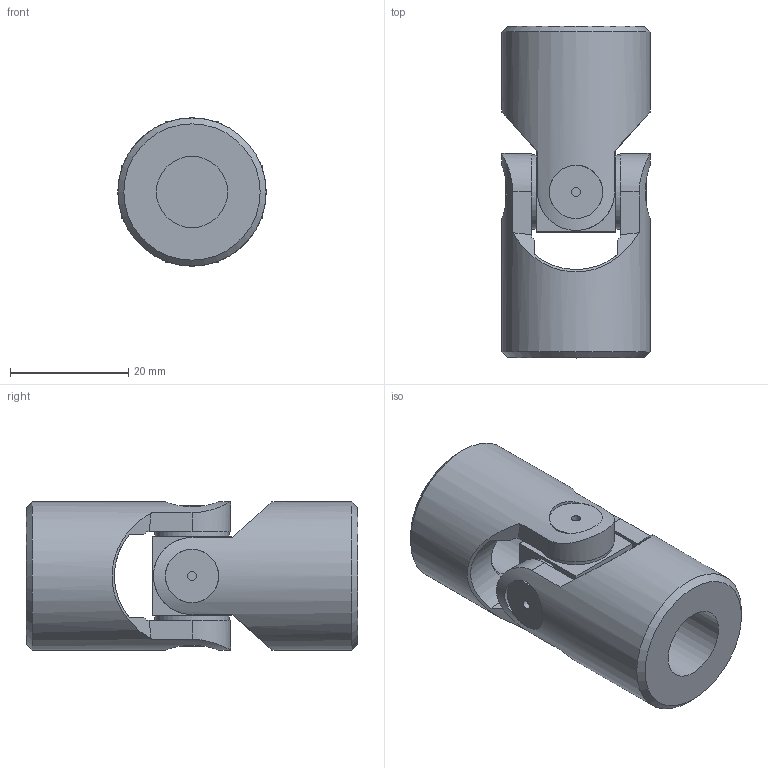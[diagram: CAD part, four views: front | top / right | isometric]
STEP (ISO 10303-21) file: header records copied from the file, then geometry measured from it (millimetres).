
FILE_DESCRIPTION(/* description */ ('EXTENSIBLE TRANSIMISSIONS Series G DIN 808 -2-'),/* implementation_level */ '2;1');
FILE_NAME(/* name */ '\\SRV2016\societa\Stefano\Disegni 3D\Dis. Clienti\0000Catalogo 3D\01Singoli G-GB\SG0S1200.stp',/* time_stamp */ '2021-11-08T14:38:39+01:00',/* author */ ('acquisti'),/* organization */ ('MARIOFERRI'),/* preprocessor_version */ 'ST-DEVELOPER v15.6',/* originating_system */ 'Autodesk Inventor 2015',/* authorisation */ '');
FILE_SCHEMA (('AUTOMOTIVE_DESIGN { 1 0 10303 214 3 1 1 }'));
Length unit declared in the file: millimetre
Products named in the file (3): 04G SFE; 04G MOS; Assieme1
Assembly tree (3 placements, depth 2):
  Assieme1
    04G SFE
    04G MOS  x2
Bounding box: 25 x 56 x 25 mm (x, y, z)
Volume: 18730.1 mm3; surface area: 8590.9 mm2
Topology: 3 solids, 3 shells, 84 faces, 194 edges, 126 vertices
Faces by surface type: plane 36, cylinder 34, cone 12, torus 2
Full cylindrical faces by diameter (mm): 1.5 x4, 12 x2, 12.5 x4, 13 x2, 25 x2
Entity records: 1551 total; most frequent: CARTESIAN_POINT 482, DIRECTION 208, ORIENTED_EDGE 192, EDGE_CURVE 96, AXIS2_PLACEMENT_3D 92, EDGE_LOOP 70, VERTEX_POINT 70, FACE_OUTER_BOUND 49
